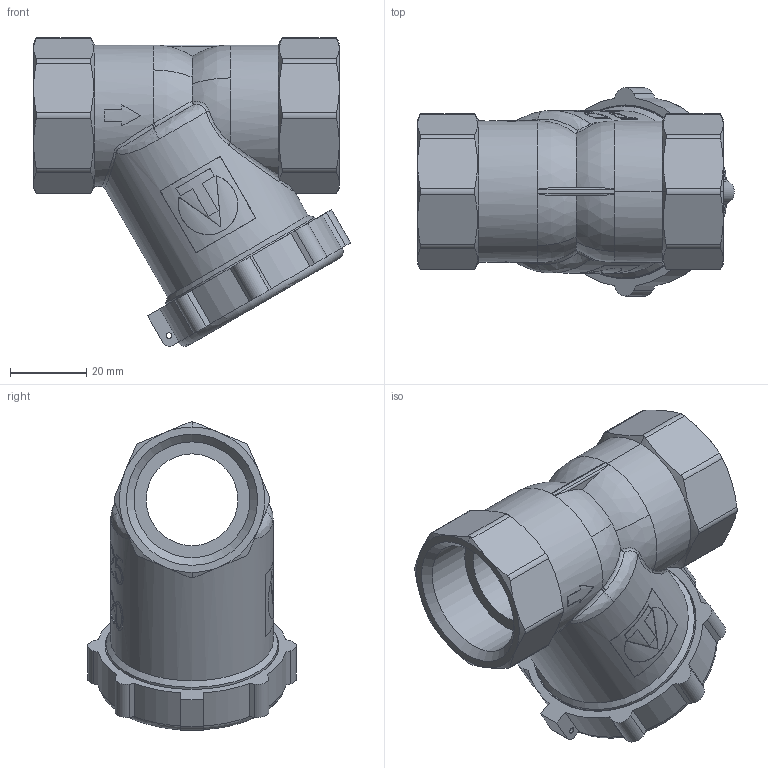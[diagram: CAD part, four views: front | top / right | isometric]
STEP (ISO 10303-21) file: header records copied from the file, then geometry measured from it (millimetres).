
FILE_DESCRIPTION(('TFLEX Exchange Step'),'2;1');
FILE_NAME('Strainer DN25 1 VT.193.N Valtec.stp', '2023-09-12T14:28:03+03:00',('denis'),('Unknown organisation'),'TFLEX Exchange 2023.0','T-FLEX CAD','Unknown authorisation');
FILE_SCHEMA( ('AUTOMOTIVE_DESIGN { 1 0 10303 214 1 1 1 1 }') );
Length unit declared in the file: millimetre
Products named in the file (1): Nodes
Bounding box: 82.91 x 54.5 x 80.68 mm (x, y, z)
Volume: 105840.5 mm3; surface area: 24553.7 mm2
Topology: 1 solids, 1 shells, 336 faces, 935 edges, 621 vertices
Faces by surface type: bspline 122, plane 120, cylinder 57, cone 28, sphere 8, torus 1
Full cylindrical faces by diameter (mm): 1.5 x1, 24 x1, 30.3 x2, 37 x1, 42.5 x1, 45 x1
Entity records: 15616 total; most frequent: CARTESIAN_POINT 8340, ORIENTED_EDGE 1870, DIRECTION 952, EDGE_CURVE 935, VERTEX_POINT 621, B_SPLINE_CURVE_WITH_KNOTS 533, AXIS2_PLACEMENT_3D 389, EDGE_LOOP 360
